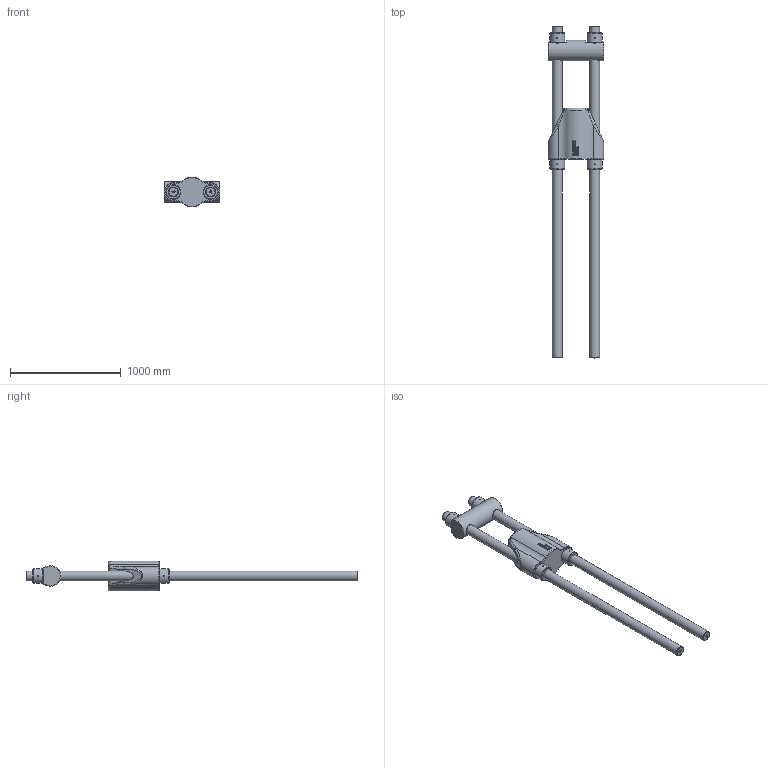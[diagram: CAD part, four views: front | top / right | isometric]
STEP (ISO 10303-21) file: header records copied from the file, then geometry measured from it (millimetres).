
FILE_DESCRIPTION(/* description */ (''),/* implementation_level */ '2;1');
FILE_NAME(/* name */ 'D:\Clienti\Redaelli (inventor)\BRC\STEP\Arrangemet\BRC084 72 111 0.stp',/* time_stamp */ '2021-05-08T08:35:34+02:00',/* author */ ('fabri'),/* organization */ (''),/* preprocessor_version */ 'ST-DEVELOPER v16.13',/* originating_system */ 'Autodesk Inventor 2018',/* authorisation */ '');
FILE_SCHEMA (('AUTOMOTIVE_DESIGN { 1 0 10303 214 3 1 1 }'));
Length unit declared in the file: millimetre
Products named in the file (5): BRC020 72 111 0; BRC020 71 112 0; BRC020 71 114 0_ROD; BRC020 71 113 0; BRC020 71 114 0_NUT
Assembly tree (8 placements, depth 2):
  BRC020 72 111 0
    BRC020 71 112 0
    BRC020 71 114 0_ROD  x2
    BRC020 71 113 0
    BRC020 71 114 0_NUT  x4
Bounding box: 504 x 3000 x 269.5 mm (x, y, z)
Volume: 85101229.5 mm3; surface area: 3252406.8 mm2
Topology: 8 solids, 8 shells, 1542 faces, 4106 edges, 2726 vertices
Faces by surface type: plane 763, bspline 655, cylinder 70, cone 30, torus 20, sphere 4
Full cylindrical faces by diameter (mm): 8 x16, 83.505 x4, 90 x2, 94 x4, 135 x4, 188 x1
Entity records: 30373 total; most frequent: CARTESIAN_POINT 11613, ORIENTED_EDGE 4418, DIRECTION 2695, EDGE_CURVE 2209, VERTEX_POINT 1472, LINE 1249, VECTOR 1249, EDGE_LOOP 957
